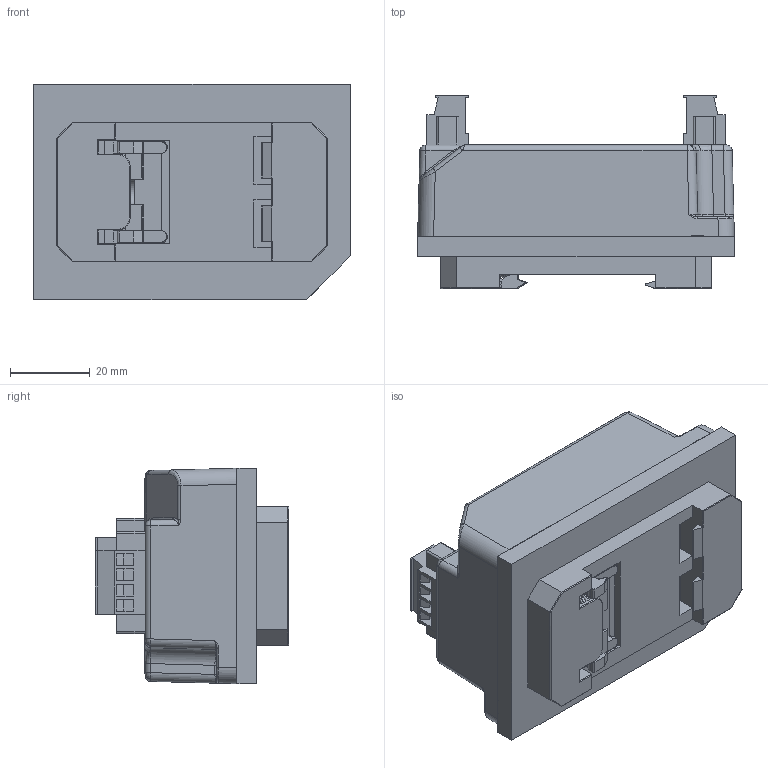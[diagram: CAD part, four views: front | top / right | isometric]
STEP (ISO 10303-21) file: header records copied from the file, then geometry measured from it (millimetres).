
FILE_DESCRIPTION (( 'STEP AP214' ), '1' );
FILE_NAME ('IPC707_with clip.STEP', '2020-09-09T06:07:50', ( 'IT' ), ( 'MSS - CH' ), 'SwSTEP 2.0', 'SolidWorks 2017', '' );
FILE_SCHEMA (( 'AUTOMOTIVE_DESIGN' ));
Length unit declared in the file: millimetre
Products named in the file (1): IPC707_with clip
Bounding box: 79.4 x 48.5 x 54 mm (x, y, z)
Volume: 129253.9 mm3; surface area: 42096 mm2
Topology: 9 solids, 9 shells, 818 faces, 2066 edges, 1329 vertices
Faces by surface type: plane 504, cylinder 194, bspline 79, cone 36, torus 4, sphere 1
Entity records: 32984 total; most frequent: CARTESIAN_POINT 12503, ORIENTED_EDGE 4116, DIRECTION 3749, EDGE_CURVE 2058, LINE 1437, VECTOR 1437, VERTEX_POINT 1329, AXIS2_PLACEMENT_3D 1156
